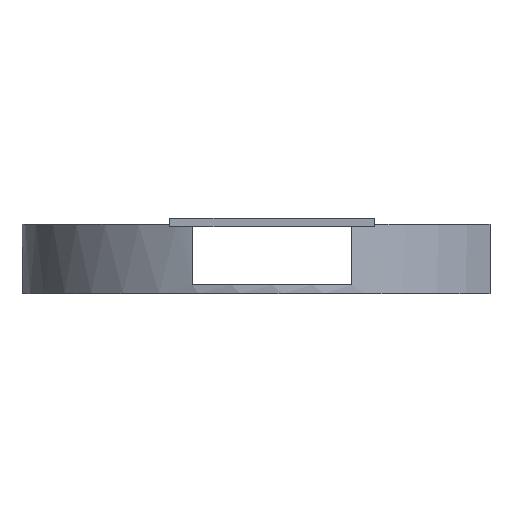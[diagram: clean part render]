
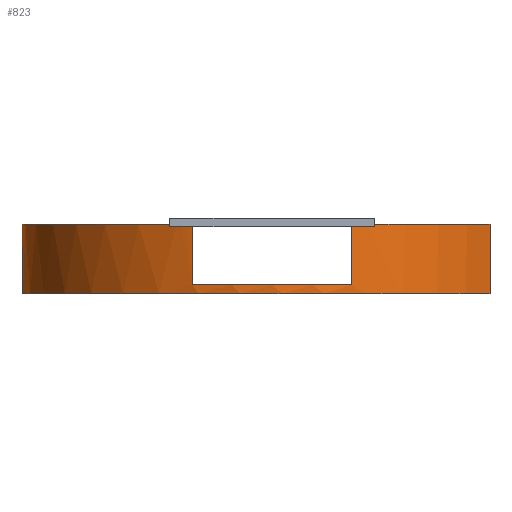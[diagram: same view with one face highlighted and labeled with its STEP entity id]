
A CAD part, left-side view. The second image highlights one B-rep face of the part: STEP entity #823.
In plain terms, the highlighted cylindrical face has radius 22 mm (diameter 44 mm), a partial arc.
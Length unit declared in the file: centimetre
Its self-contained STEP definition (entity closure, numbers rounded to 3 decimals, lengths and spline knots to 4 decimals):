
#48=FACE_OUTER_BOUND('',#88,.T.);
#88=EDGE_LOOP('',(#560,#561,#562,#563,#564,#565,#566,#567,#568,#569,#570,
#571,#572,#573,#574,#575,#576,#577,#578,#579));
#128=CIRCLE('',#879,2.2);
#129=CIRCLE('',#880,2.2);
#130=CIRCLE('',#881,2.2);
#131=CIRCLE('',#882,2.2);
#132=CIRCLE('',#883,2.2);
#133=CIRCLE('',#884,2.2);
#134=CIRCLE('',#885,2.2);
#135=CIRCLE('',#886,2.2);
#136=CIRCLE('',#887,2.2);
#137=CIRCLE('',#888,2.2);
#158=LINE('',#1196,#254);
#159=LINE('',#1200,#255);
#160=LINE('',#1204,#256);
#161=LINE('',#1208,#257);
#162=LINE('',#1212,#258);
#163=LINE('',#1216,#259);
#164=LINE('',#1220,#260);
#165=LINE('',#1224,#261);
#166=LINE('',#1228,#262);
#167=LINE('',#1232,#263);
#254=VECTOR('',#955,0.1);
#255=VECTOR('',#958,0.1);
#256=VECTOR('',#961,0.1);
#257=VECTOR('',#964,0.1);
#258=VECTOR('',#967,0.1);
#259=VECTOR('',#970,0.1);
#260=VECTOR('',#973,0.1);
#261=VECTOR('',#976,0.1);
#262=VECTOR('',#979,0.1);
#263=VECTOR('',#982,0.1);
#350=VERTEX_POINT('',#1194);
#351=VERTEX_POINT('',#1195);
#352=VERTEX_POINT('',#1197);
#353=VERTEX_POINT('',#1199);
#354=VERTEX_POINT('',#1201);
#355=VERTEX_POINT('',#1203);
#356=VERTEX_POINT('',#1205);
#357=VERTEX_POINT('',#1207);
#358=VERTEX_POINT('',#1209);
#359=VERTEX_POINT('',#1211);
#360=VERTEX_POINT('',#1213);
#361=VERTEX_POINT('',#1215);
#362=VERTEX_POINT('',#1217);
#363=VERTEX_POINT('',#1219);
#364=VERTEX_POINT('',#1221);
#365=VERTEX_POINT('',#1223);
#366=VERTEX_POINT('',#1225);
#367=VERTEX_POINT('',#1227);
#368=VERTEX_POINT('',#1229);
#369=VERTEX_POINT('',#1231);
#434=EDGE_CURVE('',#350,#351,#158,.T.);
#435=EDGE_CURVE('',#351,#352,#128,.T.);
#436=EDGE_CURVE('',#352,#353,#159,.T.);
#437=EDGE_CURVE('',#354,#353,#129,.T.);
#438=EDGE_CURVE('',#355,#354,#160,.T.);
#439=EDGE_CURVE('',#355,#356,#130,.T.);
#440=EDGE_CURVE('',#357,#356,#161,.T.);
#441=EDGE_CURVE('',#358,#357,#131,.T.);
#442=EDGE_CURVE('',#358,#359,#162,.T.);
#443=EDGE_CURVE('',#359,#360,#132,.T.);
#444=EDGE_CURVE('',#360,#361,#163,.T.);
#445=EDGE_CURVE('',#361,#362,#133,.T.);
#446=EDGE_CURVE('',#363,#362,#164,.T.);
#447=EDGE_CURVE('',#363,#364,#134,.T.);
#448=EDGE_CURVE('',#365,#364,#165,.T.);
#449=EDGE_CURVE('',#366,#365,#135,.T.);
#450=EDGE_CURVE('',#366,#367,#166,.T.);
#451=EDGE_CURVE('',#367,#368,#136,.T.);
#452=EDGE_CURVE('',#369,#368,#167,.T.);
#453=EDGE_CURVE('',#350,#369,#137,.T.);
#560=ORIENTED_EDGE('',*,*,#434,.T.);
#561=ORIENTED_EDGE('',*,*,#435,.T.);
#562=ORIENTED_EDGE('',*,*,#436,.T.);
#563=ORIENTED_EDGE('',*,*,#437,.F.);
#564=ORIENTED_EDGE('',*,*,#438,.F.);
#565=ORIENTED_EDGE('',*,*,#439,.T.);
#566=ORIENTED_EDGE('',*,*,#440,.F.);
#567=ORIENTED_EDGE('',*,*,#441,.F.);
#568=ORIENTED_EDGE('',*,*,#442,.T.);
#569=ORIENTED_EDGE('',*,*,#443,.T.);
#570=ORIENTED_EDGE('',*,*,#444,.T.);
#571=ORIENTED_EDGE('',*,*,#445,.T.);
#572=ORIENTED_EDGE('',*,*,#446,.F.);
#573=ORIENTED_EDGE('',*,*,#447,.T.);
#574=ORIENTED_EDGE('',*,*,#448,.F.);
#575=ORIENTED_EDGE('',*,*,#449,.F.);
#576=ORIENTED_EDGE('',*,*,#450,.T.);
#577=ORIENTED_EDGE('',*,*,#451,.T.);
#578=ORIENTED_EDGE('',*,*,#452,.F.);
#579=ORIENTED_EDGE('',*,*,#453,.F.);
#812=CYLINDRICAL_SURFACE('',#878,2.2);
#823=ADVANCED_FACE('',(#48),#812,.T.);
#878=AXIS2_PLACEMENT_3D('',#1193,#953,#954);
#879=AXIS2_PLACEMENT_3D('',#1198,#956,#957);
#880=AXIS2_PLACEMENT_3D('',#1202,#959,#960);
#881=AXIS2_PLACEMENT_3D('',#1206,#962,#963);
#882=AXIS2_PLACEMENT_3D('',#1210,#965,#966);
#883=AXIS2_PLACEMENT_3D('',#1214,#968,#969);
#884=AXIS2_PLACEMENT_3D('',#1218,#971,#972);
#885=AXIS2_PLACEMENT_3D('',#1222,#974,#975);
#886=AXIS2_PLACEMENT_3D('',#1226,#977,#978);
#887=AXIS2_PLACEMENT_3D('',#1230,#980,#981);
#888=AXIS2_PLACEMENT_3D('',#1233,#983,#984);
#953=DIRECTION('center_axis',(0.,0.,-1.));
#954=DIRECTION('ref_axis',(0.,1.,0.));
#955=DIRECTION('',(0.,0.,-1.));
#956=DIRECTION('center_axis',(0.,0.,-1.));
#957=DIRECTION('ref_axis',(1.,0.,0.));
#958=DIRECTION('',(0.,0.,-1.));
#959=DIRECTION('center_axis',(0.,0.,1.));
#960=DIRECTION('ref_axis',(1.,0.,0.));
#961=DIRECTION('',(0.,0.,-1.));
#962=DIRECTION('center_axis',(0.,0.,-1.));
#963=DIRECTION('ref_axis',(1.,0.,0.));
#964=DIRECTION('',(0.,0.,-1.));
#965=DIRECTION('center_axis',(0.,0.,1.));
#966=DIRECTION('ref_axis',(1.,0.,0.));
#967=DIRECTION('',(0.,0.,-1.));
#968=DIRECTION('center_axis',(0.,0.,-1.));
#969=DIRECTION('ref_axis',(1.,0.,0.));
#970=DIRECTION('',(0.,0.,-1.));
#971=DIRECTION('center_axis',(0.,0.,-1.));
#972=DIRECTION('ref_axis',(0.948,0.318,0.));
#973=DIRECTION('',(0.,0.,-1.));
#974=DIRECTION('center_axis',(0.,0.,-1.));
#975=DIRECTION('ref_axis',(1.,0.,0.));
#976=DIRECTION('',(0.,0.,-1.));
#977=DIRECTION('center_axis',(0.,0.,1.));
#978=DIRECTION('ref_axis',(1.,0.,0.));
#979=DIRECTION('',(0.,0.,-1.));
#980=DIRECTION('center_axis',(0.,0.,1.));
#981=DIRECTION('ref_axis',(0.492,-0.87,0.));
#982=DIRECTION('',(0.,0.,-1.));
#983=DIRECTION('center_axis',(0.,0.,1.));
#984=DIRECTION('ref_axis',(1.,0.,0.));
#1193=CARTESIAN_POINT('Origin',(0.,4.05,0.305));
#1194=CARTESIAN_POINT('',(-2.03,3.202,0.855));
#1195=CARTESIAN_POINT('',(-2.03,3.202,0.835));
#1196=CARTESIAN_POINT('',(-2.03,3.202,0.305));
#1197=CARTESIAN_POINT('',(-2.0857,3.35,0.835));
#1198=CARTESIAN_POINT('Origin',(0.,4.05,0.835));
#1199=CARTESIAN_POINT('',(-2.0857,3.35,0.325));
#1200=CARTESIAN_POINT('',(-2.0857,3.35,0.305));
#1201=CARTESIAN_POINT('',(-2.0857,4.75,0.325));
#1202=CARTESIAN_POINT('Origin',(0.,4.05,0.325));
#1203=CARTESIAN_POINT('',(-2.0857,4.75,0.835));
#1204=CARTESIAN_POINT('',(-2.0857,4.75,0.305));
#1205=CARTESIAN_POINT('',(-2.03,4.898,0.835));
#1206=CARTESIAN_POINT('Origin',(0.,4.05,0.835));
#1207=CARTESIAN_POINT('',(-2.03,4.898,0.855));
#1208=CARTESIAN_POINT('',(-2.03,4.898,0.305));
#1209=CARTESIAN_POINT('',(2.03,4.898,0.855));
#1210=CARTESIAN_POINT('Origin',(0.,4.05,0.855));
#1211=CARTESIAN_POINT('',(2.03,4.898,0.835));
#1212=CARTESIAN_POINT('',(2.03,4.898,0.305));
#1213=CARTESIAN_POINT('',(2.0857,4.75,0.835));
#1214=CARTESIAN_POINT('Origin',(0.,4.05,0.835));
#1215=CARTESIAN_POINT('',(2.0857,4.75,0.325));
#1216=CARTESIAN_POINT('',(2.0857,4.75,0.305));
#1217=CARTESIAN_POINT('',(2.0857,3.35,0.325));
#1218=CARTESIAN_POINT('Origin',(0.,4.05,0.325));
#1219=CARTESIAN_POINT('',(2.0857,3.35,0.835));
#1220=CARTESIAN_POINT('',(2.0857,3.35,0.305));
#1221=CARTESIAN_POINT('',(2.03,3.202,0.835));
#1222=CARTESIAN_POINT('Origin',(0.,4.05,0.835));
#1223=CARTESIAN_POINT('',(2.03,3.202,0.855));
#1224=CARTESIAN_POINT('',(2.03,3.202,0.305));
#1225=CARTESIAN_POINT('',(1.0829,2.135,0.855));
#1226=CARTESIAN_POINT('Origin',(0.,4.05,0.855));
#1227=CARTESIAN_POINT('',(1.0829,2.135,0.245));
#1228=CARTESIAN_POINT('',(1.0829,2.135,0.305));
#1229=CARTESIAN_POINT('',(-1.0829,2.135,0.245));
#1230=CARTESIAN_POINT('Origin',(0.,4.05,0.245));
#1231=CARTESIAN_POINT('',(-1.0829,2.135,0.855));
#1232=CARTESIAN_POINT('',(-1.0829,2.135,0.305));
#1233=CARTESIAN_POINT('Origin',(0.,4.05,0.855));
